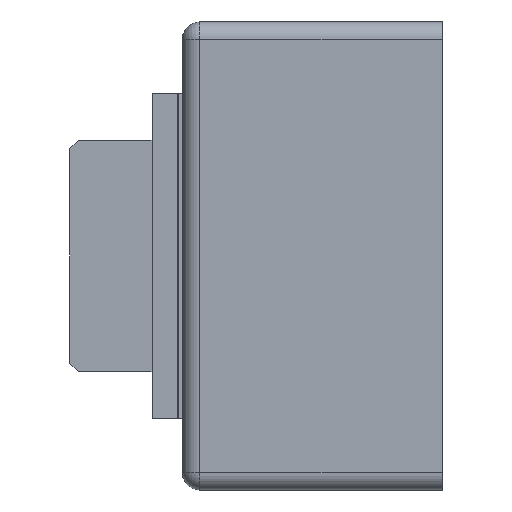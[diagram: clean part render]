
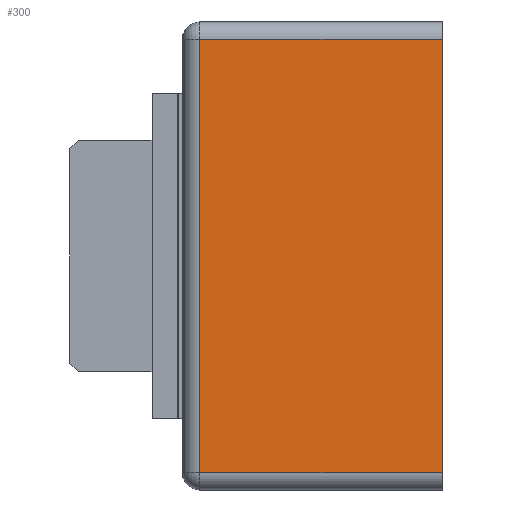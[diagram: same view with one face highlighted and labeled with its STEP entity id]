
A CAD part, left-side view. The second image highlights one B-rep face of the part: STEP entity #300.
In plain terms, the highlighted planar face has unit normal (-1, 0, 0).
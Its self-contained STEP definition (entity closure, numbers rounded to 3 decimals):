
#300 = ADVANCED_FACE ( 'NONE', ( #1791 ), #1790, .F. ) ;
#301 = EDGE_LOOP ( 'NONE', ( #302, #357, #360, #363 ) ) ;
#302 = ORIENTED_EDGE ( 'NONE', *, *, #354, .T. ) ;
#354 = EDGE_CURVE ( 'NONE', #355, #356, #1835, .T. ) ;
#355 = VERTEX_POINT ( 'NONE', #1831 ) ;
#356 = VERTEX_POINT ( 'NONE', #1830 ) ;
#357 = ORIENTED_EDGE ( 'NONE', *, *, #358, .T. ) ;
#358 = EDGE_CURVE ( 'NONE', #356, #359, #1829, .T. ) ;
#359 = VERTEX_POINT ( 'NONE', #1893 ) ;
#360 = ORIENTED_EDGE ( 'NONE', *, *, #361, .F. ) ;
#361 = EDGE_CURVE ( 'NONE', #362, #359, #1892, .T. ) ;
#362 = VERTEX_POINT ( 'NONE', #1888 ) ;
#363 = ORIENTED_EDGE ( 'NONE', *, *, #364, .T. ) ;
#364 = EDGE_CURVE ( 'NONE', #362, #355, #1887, .T. ) ;
#1322 = DIRECTION ( 'NONE',  ( 0., -1., 0. ) ) ;
#1576 = VECTOR ( 'NONE', #1322, 1000. ) ;
#1786 = DIRECTION ( 'NONE',  ( 0., 0., -1. ) ) ;
#1787 = DIRECTION ( 'NONE',  ( 1., 0., 0. ) ) ;
#1788 = CARTESIAN_POINT ( 'NONE',  ( 0., 0., 108. ) ) ;
#1789 = AXIS2_PLACEMENT_3D ( 'NONE', #1788, #1787, #1786 ) ;
#1790 = PLANE ( 'NONE',  #1789 ) ;
#1791 = FACE_OUTER_BOUND ( 'NONE', #301, .T. ) ;
#1828 = CARTESIAN_POINT ( 'NONE',  ( 0., 0., 4. ) ) ;
#1829 = LINE ( 'NONE', #1828, #1576 ) ;
#1830 = CARTESIAN_POINT ( 'NONE',  ( 0., 56., 4. ) ) ;
#1831 = CARTESIAN_POINT ( 'NONE',  ( 0., 56., 104. ) ) ;
#1832 = DIRECTION ( 'NONE',  ( 0., 0., -1. ) ) ;
#1833 = VECTOR ( 'NONE', #1832, 1000. ) ;
#1834 = CARTESIAN_POINT ( 'NONE',  ( 0., 56., 108. ) ) ;
#1835 = LINE ( 'NONE', #1834, #1833 ) ;
#1884 = DIRECTION ( 'NONE',  ( 0., 1., 0. ) ) ;
#1885 = VECTOR ( 'NONE', #1884, 1000. ) ;
#1886 = CARTESIAN_POINT ( 'NONE',  ( 0., 0., 104. ) ) ;
#1887 = LINE ( 'NONE', #1886, #1885 ) ;
#1888 = CARTESIAN_POINT ( 'NONE',  ( 0., 0., 104. ) ) ;
#1889 = DIRECTION ( 'NONE',  ( 0., 0., -1. ) ) ;
#1890 = VECTOR ( 'NONE', #1889, 1000. ) ;
#1891 = CARTESIAN_POINT ( 'NONE',  ( 0., 0., 108. ) ) ;
#1892 = LINE ( 'NONE', #1891, #1890 ) ;
#1893 = CARTESIAN_POINT ( 'NONE',  ( 0., 0., 4. ) ) ;
